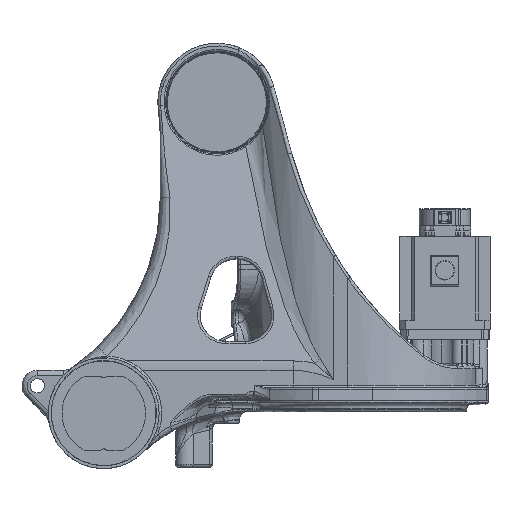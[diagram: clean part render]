
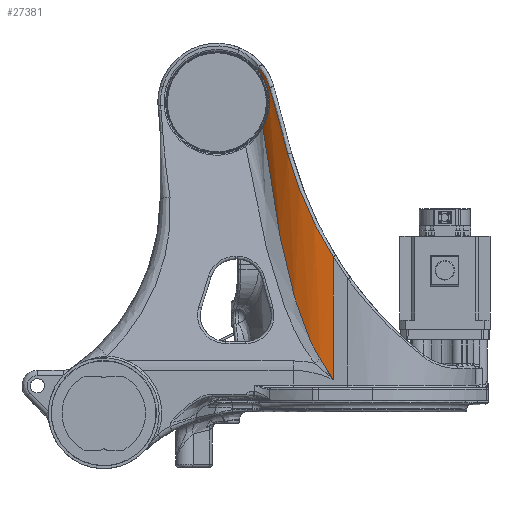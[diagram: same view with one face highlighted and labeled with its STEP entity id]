
A CAD part, front view. The second image highlights one B-rep face of the part: STEP entity #27381.
In plain terms, the highlighted cylindrical face has radius 200 mm (diameter 400 mm), a partial arc.
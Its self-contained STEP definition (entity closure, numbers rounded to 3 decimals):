
#27299=AXIS2_PLACEMENT_3D('Cylinder Axis2P3D',#27296,#27297,#27298) ;
#23160=CARTESIAN_POINT('Vertex',(2947.278,-223.059,3135.628)) ;
#25574=CARTESIAN_POINT('Control Point',(2921.747,-219.389,3176.682)) ;
#25575=CARTESIAN_POINT('Control Point',(2926.211,-220.328,3170.33)) ;
#25576=CARTESIAN_POINT('Control Point',(2930.648,-221.128,3163.693)) ;
#25577=CARTESIAN_POINT('Control Point',(2935.065,-221.797,3156.738)) ;
#25578=CARTESIAN_POINT('Control Point',(2940.054,-222.413,3148.454)) ;
#25579=CARTESIAN_POINT('Control Point',(2945.012,-222.87,3139.697)) ;
#25580=CARTESIAN_POINT('Control Point',(2945.603,-222.922,3138.646)) ;
#25581=CARTESIAN_POINT('Control Point',(2946.291,-222.98,3137.414)) ;
#25582=CARTESIAN_POINT('Control Point',(2946.978,-223.035,3136.173)) ;
#25583=CARTESIAN_POINT('Control Point',(2947.075,-223.043,3135.997)) ;
#25584=CARTESIAN_POINT('Control Point',(2947.174,-223.051,3135.818)) ;
#25585=CARTESIAN_POINT('Control Point',(2947.273,-223.058,3135.638)) ;
#25586=CARTESIAN_POINT('Control Point',(2947.275,-223.059,3135.635)) ;
#25587=CARTESIAN_POINT('Control Point',(2947.276,-223.059,3135.632)) ;
#25588=CARTESIAN_POINT('Control Point',(2947.278,-223.059,3135.628)) ;
#25589=CARTESIAN_POINT('Vertex',(2921.747,-219.389,3176.682)) ;
#25772=CARTESIAN_POINT('Vertex',(2810.17,-152.785,3627.288)) ;
#25789=CARTESIAN_POINT('Control Point',(2921.747,-219.389,3176.682)) ;
#25790=CARTESIAN_POINT('Control Point',(2917.372,-218.469,3182.907)) ;
#25791=CARTESIAN_POINT('Control Point',(2913.374,-217.5,3189.458)) ;
#25792=CARTESIAN_POINT('Control Point',(2909.667,-216.506,3196.184)) ;
#25793=CARTESIAN_POINT('Control Point',(2900.57,-213.848,3214.167)) ;
#25794=CARTESIAN_POINT('Control Point',(2892.798,-211.075,3232.927)) ;
#25795=CARTESIAN_POINT('Control Point',(2888.377,-209.348,3244.61)) ;
#25796=CARTESIAN_POINT('Control Point',(2878.246,-205.063,3273.602)) ;
#25797=CARTESIAN_POINT('Control Point',(2869.579,-200.69,3303.19)) ;
#25798=CARTESIAN_POINT('Control Point',(2864.844,-198.096,3320.74)) ;
#25799=CARTESIAN_POINT('Control Point',(2853.851,-191.609,3364.628)) ;
#25800=CARTESIAN_POINT('Control Point',(2844.493,-185.051,3408.993)) ;
#25801=CARTESIAN_POINT('Control Point',(2839.36,-181.133,3435.501)) ;
#25802=CARTESIAN_POINT('Control Point',(2829.664,-173.127,3489.665)) ;
#25803=CARTESIAN_POINT('Control Point',(2821.298,-165.08,3544.104)) ;
#25804=CARTESIAN_POINT('Control Point',(2817.341,-160.989,3571.782)) ;
#25805=CARTESIAN_POINT('Control Point',(2813.64,-156.89,3599.514)) ;
#25806=CARTESIAN_POINT('Control Point',(2810.17,-152.785,3627.288)) ;
#27296=CARTESIAN_POINT('Axis2P3D Location',(2962.91,-23.671,3469.)) ;
#27301=CARTESIAN_POINT('Line Origine',(2947.278,-223.059,3469.)) ;
#27305=CARTESIAN_POINT('Vertex',(2947.278,-223.059,3375.091)) ;
#27309=CARTESIAN_POINT('Control Point',(2947.278,-223.059,3375.091)) ;
#27310=CARTESIAN_POINT('Control Point',(2923.715,-221.212,3412.452)) ;
#27311=CARTESIAN_POINT('Control Point',(2903.014,-216.091,3451.359)) ;
#27312=CARTESIAN_POINT('Control Point',(2885.317,-209.218,3491.485)) ;
#27313=CARTESIAN_POINT('Control Point',(2870.588,-201.611,3532.744)) ;
#27314=CARTESIAN_POINT('Control Point',(2858.931,-194.517,3575.159)) ;
#27315=CARTESIAN_POINT('Vertex',(2858.931,-194.517,3575.159)) ;
#27319=CARTESIAN_POINT('Control Point',(2858.931,-194.517,3575.159)) ;
#27320=CARTESIAN_POINT('Control Point',(2856.987,-193.334,3582.235)) ;
#27321=CARTESIAN_POINT('Control Point',(2855.044,-192.113,3589.306)) ;
#27322=CARTESIAN_POINT('Control Point',(2853.101,-190.854,3596.375)) ;
#27323=CARTESIAN_POINT('Control Point',(2849.222,-188.258,3610.49)) ;
#27324=CARTESIAN_POINT('Control Point',(2845.356,-185.503,3624.555)) ;
#27325=CARTESIAN_POINT('Control Point',(2843.428,-184.085,3631.572)) ;
#27326=CARTESIAN_POINT('Control Point',(2839.285,-180.942,3646.646)) ;
#27327=CARTESIAN_POINT('Control Point',(2835.169,-177.601,3661.625)) ;
#27328=CARTESIAN_POINT('Control Point',(2832.972,-175.752,3669.62)) ;
#27329=CARTESIAN_POINT('Control Point',(2829.726,-172.919,3681.43)) ;
#27330=CARTESIAN_POINT('Control Point',(2826.502,-169.944,3693.163)) ;
#27331=CARTESIAN_POINT('Control Point',(2825.457,-168.963,3696.964)) ;
#27332=CARTESIAN_POINT('Control Point',(2824.41,-167.962,3700.772)) ;
#27333=CARTESIAN_POINT('Control Point',(2823.366,-166.945,3704.572)) ;
#27334=CARTESIAN_POINT('Vertex',(2823.366,-166.945,3704.572)) ;
#27338=CARTESIAN_POINT('Control Point',(2823.366,-166.945,3704.572)) ;
#27339=CARTESIAN_POINT('Control Point',(2820.764,-164.411,3714.041)) ;
#27340=CARTESIAN_POINT('Control Point',(2817.107,-160.733,3723.135)) ;
#27341=CARTESIAN_POINT('Control Point',(2812.545,-155.867,3731.434)) ;
#27342=CARTESIAN_POINT('Control Point',(2807.542,-149.892,3738.655)) ;
#27343=CARTESIAN_POINT('Control Point',(2802.509,-143.134,3744.793)) ;
#27344=CARTESIAN_POINT('Vertex',(2802.509,-143.134,3744.793)) ;
#27347=CARTESIAN_POINT('Line Origine',(2802.509,-143.134,3469.)) ;
#27351=CARTESIAN_POINT('Vertex',(2802.509,-143.134,3736.46)) ;
#27355=CARTESIAN_POINT('Control Point',(2810.17,-152.785,3627.288)) ;
#27356=CARTESIAN_POINT('Control Point',(2813.418,-156.627,3633.028)) ;
#27357=CARTESIAN_POINT('Control Point',(2816.364,-159.868,3639.357)) ;
#27358=CARTESIAN_POINT('Control Point',(2818.844,-162.439,3646.228)) ;
#27359=CARTESIAN_POINT('Control Point',(2821.974,-165.593,3658.533)) ;
#27360=CARTESIAN_POINT('Control Point',(2823.107,-166.693,3671.472)) ;
#27361=CARTESIAN_POINT('Control Point',(2823.213,-166.795,3676.81)) ;
#27362=CARTESIAN_POINT('Control Point',(2822.683,-166.284,3687.887)) ;
#27363=CARTESIAN_POINT('Control Point',(2820.664,-164.276,3698.62)) ;
#27364=CARTESIAN_POINT('Control Point',(2819.236,-162.833,3704.026)) ;
#27365=CARTESIAN_POINT('Control Point',(2815.607,-159.044,3714.694)) ;
#27366=CARTESIAN_POINT('Control Point',(2810.851,-153.671,3724.15)) ;
#27367=CARTESIAN_POINT('Control Point',(2808.177,-150.505,3728.647)) ;
#27368=CARTESIAN_POINT('Control Point',(2805.372,-146.979,3732.748)) ;
#27369=CARTESIAN_POINT('Control Point',(2802.509,-143.134,3736.46)) ;
#27297=DIRECTION('Axis2P3D Direction',(0.,0.,1.)) ;
#27298=DIRECTION('Axis2P3D XDirection',(-0.843,-0.538,0.)) ;
#27302=DIRECTION('Vector Direction',(0.,0.,1.)) ;
#27348=DIRECTION('Vector Direction',(0.,0.,1.)) ;
#27303=VECTOR('Line Direction',#27302,1.) ;
#27349=VECTOR('Line Direction',#27348,1.) ;
#27372=ORIENTED_EDGE('',*,*,#25807,.F.) ;
#27373=ORIENTED_EDGE('',*,*,#25591,.F.) ;
#27374=ORIENTED_EDGE('',*,*,#27307,.F.) ;
#27375=ORIENTED_EDGE('',*,*,#27317,.F.) ;
#27376=ORIENTED_EDGE('',*,*,#27336,.F.) ;
#27377=ORIENTED_EDGE('',*,*,#27346,.F.) ;
#27378=ORIENTED_EDGE('',*,*,#27353,.F.) ;
#27379=ORIENTED_EDGE('',*,*,#27370,.T.) ;
#27381=ADVANCED_FACE('W1-001.1\\\X2\FF8AFF9FFF70FF82\X0\ \X2\FF8EFF9EFF83FF9EFF68FF70\X0\',(#27380),#27300,.T.) ;
#25573=B_SPLINE_CURVE_WITH_KNOTS('',5,(#25574,#25575,#25576,#25577,#25578,#25579,#25580,#25581,#25582,#25583,#25584,#25585,#25586,#25587,#25588),.UNSPECIFIED.,.F.,.U.,(6,3,3,3,6),(0.,110.205,125.125,127.581,127.628),.UNSPECIFIED.) ;
#25788=B_SPLINE_CURVE_WITH_KNOTS('',5,(#25789,#25790,#25791,#25792,#25793,#25794,#25795,#25796,#25797,#25798,#25799,#25800,#25801,#25802,#25803,#25804,#25805,#25806),.UNSPECIFIED.,.F.,.U.,(6,3,3,3,3,6),(170.496,227.224,318.494,450.278,645.164,846.238),.UNSPECIFIED.) ;
#27308=B_SPLINE_CURVE_WITH_KNOTS('',5,(#27309,#27310,#27311,#27312,#27313,#27314),.UNSPECIFIED.,.F.,.U.,(6,6),(1120.91,1502.174),.UNSPECIFIED.) ;
#27318=B_SPLINE_CURVE_WITH_KNOTS('',5,(#27319,#27320,#27321,#27322,#27323,#27324,#27325,#27326,#27327,#27328,#27329,#27330,#27331,#27332,#27333),.UNSPECIFIED.,.F.,.U.,(6,3,3,3,6),(1419.33,1483.341,1547.352,1621.212,1656.928),.UNSPECIFIED.) ;
#27337=B_SPLINE_CURVE_WITH_KNOTS('',5,(#27338,#27339,#27340,#27341,#27342,#27343),.UNSPECIFIED.,.F.,.U.,(6,6),(923.424,1017.588),.UNSPECIFIED.) ;
#27354=B_SPLINE_CURVE_WITH_KNOTS('',5,(#27355,#27356,#27357,#27358,#27359,#27360,#27361,#27362,#27363,#27364,#27365,#27366,#27367,#27368,#27369),.UNSPECIFIED.,.F.,.U.,(6,3,3,3,6),(122.804,175.648,212.208,251.784,293.891),.UNSPECIFIED.) ;
#27300=CYLINDRICAL_SURFACE('generated cylinder',#27299,200.) ;
#25591=EDGE_CURVE('',#23161,#25590,#25573,.F.) ;
#25807=EDGE_CURVE('',#25590,#25773,#25788,.T.) ;
#27307=EDGE_CURVE('',#27306,#23161,#27304,.F.) ;
#27317=EDGE_CURVE('',#27316,#27306,#27308,.F.) ;
#27336=EDGE_CURVE('',#27335,#27316,#27318,.F.) ;
#27346=EDGE_CURVE('',#27345,#27335,#27337,.F.) ;
#27353=EDGE_CURVE('',#27352,#27345,#27350,.T.) ;
#27370=EDGE_CURVE('',#27352,#25773,#27354,.F.) ;
#27371=EDGE_LOOP('',(#27372,#27373,#27374,#27375,#27376,#27377,#27378,#27379)) ;
#27380=FACE_OUTER_BOUND('',#27371,.T.) ;
#27304=LINE('Line',#27301,#27303) ;
#27350=LINE('Line',#27347,#27349) ;
#23161=VERTEX_POINT('',#23160) ;
#25590=VERTEX_POINT('',#25589) ;
#25773=VERTEX_POINT('',#25772) ;
#27306=VERTEX_POINT('',#27305) ;
#27316=VERTEX_POINT('',#27315) ;
#27335=VERTEX_POINT('',#27334) ;
#27345=VERTEX_POINT('',#27344) ;
#27352=VERTEX_POINT('',#27351) ;
